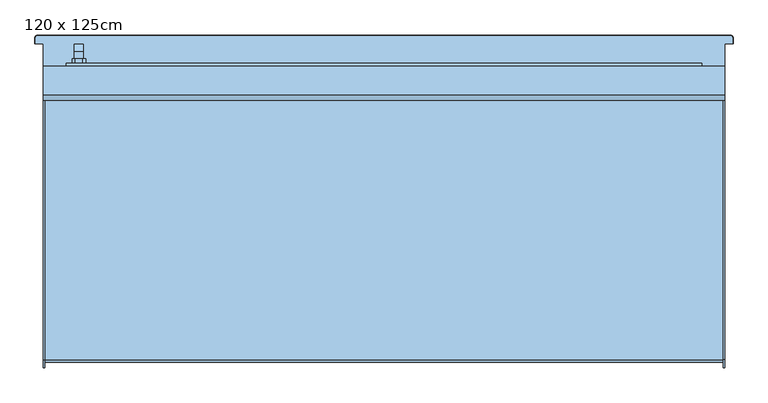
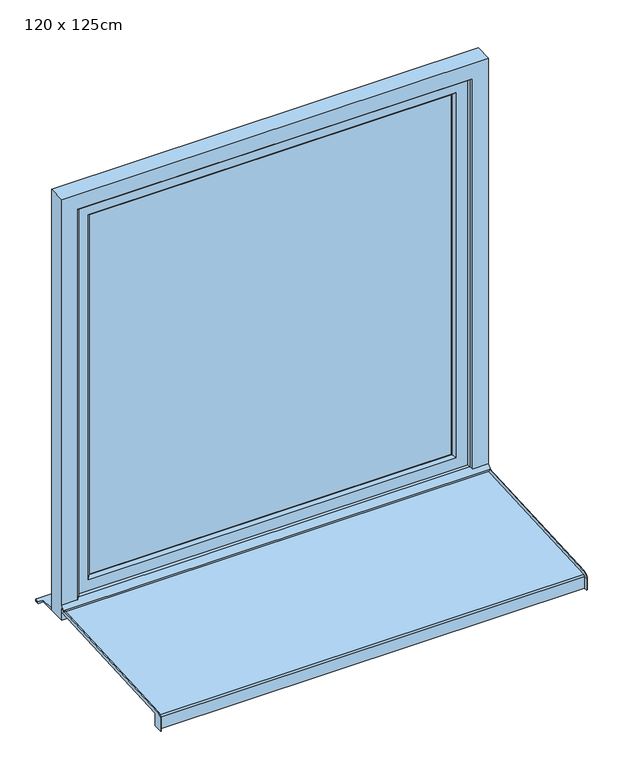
"""IFC4 building model written with IfcOpenShell, lengths in millimetres: window geometry, Fenêtre type 1 : 120 x 125cm."""

from ifc_helpers import new_model, si_unit, frame, origin, place, context, project, spatial, polyline, circle_curve, outline, extrude, faceted_brep, source, transform, mapped, element, save
from ifc_brep_helpers import plane_surface, cylinder_surface, revolved_surface, advanced_brep


def window_120_x_125cm_d7c04d48(model_context):
    return source(origin(), model_context, "Body", "SolidModel", [
        faceted_brep([(-545.5, 238.0, 1306.0), (-545.5, 238.0, 1294.0), (-529.5, 238.0, 1294.0), (-529.5, 238.0, 1306.0), (-529.5, 250.4852814, 1306.0), (-545.5, 250.4852814, 1306.0), (-529.5, 245.5147186, 1294.0), (-529.5, 252.0, 1287.5147186), (-529.5, 252.0, 1287.2282668), (-529.5, 254.7580139, 1208.5355339), (-529.5, 264.0, 1208.5355339), (-529.5, 264.0, 1292.4852814), (-545.5, 245.5147186, 1294.0), (-545.5, 264.0, 1292.4852814), (-545.5, 264.0, 1208.5355339), (-545.5, 254.7580139, 1208.5355339), (-545.5, 252.0099909, 1287.2286157), (-545.5, 252.0, 1287.5147186), (-533.0355339, 264.0, 1205.0), (-533.0355339, 254.8814775, 1205.0), (-541.9644661, 254.8814775, 1205.0), (-541.9644661, 264.0, 1205.0)], [[[0, 1, 2, 3]], [[3, 4, 5, 0]], [[2, 6, 7, 8, 9, 10, 11, 4, 3]], [[1, 12, 6, 2]], [[0, 5, 13, 14, 15, 16, 17, 12, 1]], [[4, 11, 13, 5]], [[6, 12, 17, 7]], [[18, 19, 20, 21]], [[11, 10, 18, 21, 14, 13]], [[17, 16, 8, 7]], [[16, 15, 20, 19, 9, 8]], [[9, 19, 18, 10]], [[14, 21, 20, 15]]]),
        extrude(outline(polyline([(1330.0, -544.5), (1325.0, -549.5), (1275.0, -549.5), (1270.0, -544.5), (1270.0, -530.5), (1275.0, -525.5), (1325.0, -525.5), (1330.0, -530.5), (1330.0, -544.5)])), frame((0.0, 230.0, 0.0), z_axis=(0.0, 1.0, 0.0), x_axis=(0.0, 0.0, 1.0)), (0.0, 0.0, 1.0), 8.0),
        advanced_brep(
        [(-600.0, -280.0, 762.0), (-600.0, -306.5, 762.0), (-600.0, -306.5, 795.1063906), (-600.0, -292.2850393, 810.0858337), (-600.0, 175.0, 834.5752049), (-600.0, 175.0, 823.0594229), (-600.0, -280.0, 799.2138833), (600.0, -280.0, 799.2138833), (600.0, 175.0, 823.0594229), (600.0, 175.0, 834.5752049), (600.0, -292.2850393, 810.0858337), (600.0, -306.5, 795.1063906), (600.0, -306.5, 762.0), (600.0, -280.0, 762.0), (-598.0, 175.0, 834.5752049), (-598.0, 175.0, 824.5614814), (598.0, 175.0, 824.5614814), (598.0, 175.0, 834.5752049), (-598.0, -291.7616798, 800.0995383), (598.0, -291.7616798, 800.0995383), (598.0, -296.5, 795.1063906), (-598.0, -296.5, 795.1063906), (-598.0, -296.5, 762.0), (598.0, -296.5, 762.0), (-598.0, -295.0, 762.0), (598.0, -295.0, 762.0), (598.0, -280.0, 762.0), (598.0, -306.5, 762.0), (-598.0, -306.5, 762.0), (-598.0, -280.0, 762.0), (-598.0, -285.0, 772.0), (598.0, -285.0, 772.0), (-598.0, -286.0606602, 773.0606602), (598.0, -286.0606602, 773.0606602), (-598.0, -295.0, 764.1213203), (598.0, -295.0, 764.1213203), (-598.0, -295.0, 795.0728058), (598.0, -295.0, 795.0728058), (-598.0, -280.0, 799.2138833), (598.0, -280.0, 799.2138833), (598.0, -291.649637, 798.6033517), (-598.0, -291.649637, 798.6033517), (598.0, -306.5, 795.1063906), (598.0, -292.2850393, 810.0858337), (-598.0, -292.2850393, 810.0858337), (-598.0, -306.5, 795.1063906)],
        [
            (0, 1),
            (1, 2),
            (2, 3, circle_curve(frame((-600.0, -291.5, 795.1063906), z_axis=(-1.0, 0.0, 0.0), x_axis=(0.0, -0.05233595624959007, 0.9986295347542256)), 15.0)),
            (3, 4),
            (4, 5),
            (5, 6),
            (6, 0),
            (7, 8),
            (8, 9),
            (9, 10),
            (10, 11, circle_curve(frame((600.0, -291.5, 795.1063906), z_axis=(1.0, 0.0, 0.0), x_axis=(0.0, -1.0, 0.0)), 15.0)),
            (11, 12),
            (12, 13),
            (13, 7),
            (14, 15),
            (15, 16),
            (16, 17),
            (17, 9),
            (8, 5),
            (4, 14),
            (18, 19),
            (19, 16),
            (15, 18),
            (20, 21),
            (21, 22),
            (22, 23),
            (23, 20),
            (24, 25),
            (25, 26),
            (26, 13),
            (12, 27),
            (27, 23),
            (22, 28),
            (28, 1),
            (0, 29),
            (29, 24),
            (30, 31),
            (31, 25),
            (24, 30),
            (32, 33),
            (33, 31),
            (30, 32),
            (34, 35),
            (35, 33),
            (32, 34),
            (36, 37),
            (37, 35),
            (34, 36),
            (38, 6),
            (7, 39),
            (39, 40),
            (40, 41),
            (41, 38),
            (41, 36, circle_curve(frame((-598.0, -291.4646089, 795.0728058), z_axis=(1.0, 0.0, 0.0), x_axis=(0.0, 1.0, 0.0)), 3.5353911)),
            (29, 38),
            (37, 40, circle_curve(frame((598.0, -291.4646089, 795.0728058), z_axis=(-1.0, 0.0, 0.0), x_axis=(0.0, 1.0, 0.0)), 3.5353911)),
            (39, 26),
            (18, 21, circle_curve(frame((-598.0, -291.5, 795.1063906), z_axis=(1.0, 0.0, 0.0), x_axis=(0.0, 1.0, 0.0)), 5.0)),
            (20, 19, circle_curve(frame((598.0, -291.5, 795.1063906), z_axis=(-1.0, 0.0, 0.0), x_axis=(0.0, 1.0, 0.0)), 5.0)),
            (27, 42),
            (42, 43, circle_curve(frame((598.0, -291.5, 795.1063906), z_axis=(-1.0, 0.0, 0.0), x_axis=(0.0, -1.0, 0.0)), 15.0)),
            (43, 17),
            (11, 42),
            (10, 43),
            (14, 44),
            (44, 45, circle_curve(frame((-598.0, -291.5, 795.1063906), z_axis=(1.0, 0.0, 0.0), x_axis=(0.0, -0.05233595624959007, 0.9986295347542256)), 15.0)),
            (45, 28),
            (3, 44),
            (2, 45),
        ],
        [
            plane_surface(frame((-600.0, 175.0, 823.0594229), z_axis=(-1.0, 0.0, 0.0), x_axis=(0.0, 0.0, 1.0))),
            plane_surface(frame((600.0, 175.0, 823.0594229), z_axis=(1.0, 0.0, 0.0), x_axis=(0.0, 0.0, -1.0))),
            plane_surface(frame((-600.0, 175.0, 823.0594229), z_axis=(0.0, 1.0, 0.0), x_axis=(1.0, 0.0, 0.0))),
            plane_surface(frame((-600.0, 175.0, 824.5614814), z_axis=(0.0, -0.05233595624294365, 0.9986295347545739), x_axis=(1.0, 0.0, 0.0))),
            plane_surface(frame((-600.0, -296.5, 795.1063906), z_axis=(0.0, -1.0, 0.0), x_axis=(1.0, 0.0, 0.0))),
            plane_surface(frame((-600.0, -296.5, 762.0), z_axis=(0.0, 0.0, -1.0), x_axis=(1.0, 0.0, 0.0))),
            plane_surface(frame((-600.0, -295.0, 762.0), z_axis=(0.0, 0.707106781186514, -0.7071067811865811), x_axis=(1.0, 0.0, 0.0))),
            plane_surface(frame((-600.0, -285.0, 772.0), z_axis=(0.0, 0.7071067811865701, 0.707106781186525), x_axis=(1.0, 0.0, 0.0))),
            plane_surface(frame((-600.0, -286.0606602, 773.0606602), z_axis=(0.0, -0.7071067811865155, 0.7071067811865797), x_axis=(1.0, 0.0, 0.0))),
            plane_surface(frame((-600.0, -295.0, 764.1213203), z_axis=(0.0, 1.0, 0.0), x_axis=(1.0, 0.0, 0.0))),
            plane_surface(frame((-600.0, -291.649637, 798.6033517), z_axis=(0.0, 0.05233595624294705, -0.9986295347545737), x_axis=(1.0, 0.0, 0.0))),
            plane_surface(frame((-598.0, -295.0, 798.4277666), z_axis=(1.0, 0.0, 0.0), x_axis=(0.0, 0.9986295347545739, 0.05233595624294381))),
            plane_surface(frame((-600.0, -280.0, 762.0), z_axis=(0.0, 1.0, 0.0), x_axis=(1.0, 0.0, 0.0))),
            plane_surface(frame((598.0, -295.0, 798.4277666), z_axis=(-1.0, 0.0, 0.0), x_axis=(0.0, 0.0, -1.0))),
            plane_surface(frame((598.0, -280.0, 762.0), z_axis=(0.0, 1.0, 0.0), x_axis=(1.0, 0.0, 0.0))),
            cylinder_surface(frame((600.0, -291.5, 795.1063906), z_axis=(-1.0, 0.0, 0.0), x_axis=(0.0, 1.0, 0.0)), 5.0),
            revolved_surface(polyline([(598.0, -287.92921779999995, 795.0728058), (-598.0, -287.92921779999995, 795.0728058)]), (600.0, -291.4646089, 795.0728058), (1.0, 0.0, 0.0)),
            plane_surface(frame((598.0, -296.5, 762.0), z_axis=(-1.0, 0.0, 0.0), x_axis=(0.0, 0.0, 1.0))),
            plane_surface(frame((598.0, -306.5, 762.0), z_axis=(0.0, -1.0, 0.0), x_axis=(0.0, 0.0, 1.0))),
            cylinder_surface(frame((600.0, -291.5, 795.1063906), z_axis=(1.0, 0.0, 0.0), x_axis=(0.0, -1.0, 0.0)), 15.0),
            plane_surface(frame((598.0, -292.2850393, 810.0858337), z_axis=(0.0, -0.05233595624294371, 0.9986295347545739), x_axis=(0.0, 0.9986295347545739, 0.05233595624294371))),
            plane_surface(frame((-598.0, 175.0, 834.5752049), z_axis=(1.0, 0.0, 0.0), x_axis=(0.0, 0.9986295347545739, 0.05233595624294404))),
            plane_surface(frame((-600.0, 175.0, 834.5752049), z_axis=(0.0, -0.05233595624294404, 0.9986295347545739), x_axis=(1.0, 0.0, 0.0))),
            cylinder_surface(frame((-600.0, -291.5, 795.1063906), z_axis=(-1.0, 0.0, 0.0), x_axis=(0.0, -0.05233595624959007, 0.9986295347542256)), 15.0),
            plane_surface(frame((-598.0, -306.5, 795.1063906), z_axis=(0.0, -1.0, 0.0), x_axis=(0.0, 0.0, -1.0))),
        ],
        [
            (0, [[1, 2, 3, 4, 5, 6, 7]]),
            (1, [[8, 9, 10, 11, 12, 13, 14]]),
            (2, [[15, 16, 17, 18, -9, 19, -5, 20]]),
            (3, [[21, 22, -16, 23]]),
            (4, [[24, 25, 26, 27]]),
            (5, [[28, 29, 30, -13, 31, 32, -26, 33, 34, -1, 35, 36]]),
            (6, [[37, 38, -28, 39]]),
            (7, [[40, 41, -37, 42]]),
            (8, [[43, 44, -40, 45]]),
            (9, [[46, 47, -43, 48]]),
            (10, [[49, -6, -19, -8, 50, 51, 52, 53]]),
            (11, [[-53, 54, -48, -45, -42, -39, -36, 55]]),
            (12, [[-35, -7, -49, -55]]),
            (13, [[-38, -41, -44, -47, 56, -51, 57, -29]]),
            (14, [[-50, -14, -30, -57]]),
            (15, [[-21, 58, -24, 59]]),
            (16, [[-52, -56, -46, -54]]),
            (17, [[60, 61, 62, -17, -22, -59, -27, -32]]),
            (18, [[-12, 63, -60, -31]]),
            (19, [[64, -61, -63, -11]]),
            (20, [[-10, -18, -62, -64]]),
            (21, [[65, 66, 67, -33, -25, -58, -23, -15]]),
            (22, [[68, -65, -20, -4]]),
            (23, [[69, -66, -68, -3]]),
            (24, [[-34, -67, -69, -2]]),
        ],
    ),
        extrude(outline(polyline([(-510.0, 220.0), (510.0, 220.0), (510.0, 200.0), (-510.0, 200.0), (-510.0, 220.0)])), frame((0.0, 0.0, 890.0), z_axis=(0.0, 0.0, 1.0), x_axis=(1.0, 0.0, 0.0)), (0.0, 0.0, 1.0), 1070.0),
        faceted_brep([(-560.0, 230.0, 840.0), (560.0, 230.0, 840.0), (560.0, 190.0, 840.0), (-560.0, 190.0, 840.0), (560.0, 230.0, 2010.0), (560.0, 190.0, 2010.0), (-560.0, 190.0, 2010.0), (517.0710678, 190.0, 1967.0710678), (517.0710678, 190.0, 882.9289322), (-517.0710678, 190.0, 882.9289322), (-517.0710678, 190.0, 1967.0710678), (-560.0, 230.0, 2010.0), (517.0710678, 230.0, 882.9289322), (517.0710678, 230.0, 1967.0710678), (-517.0710678, 230.0, 1967.0710678), (-517.0710678, 230.0, 882.9289322), (-510.0, 222.9289322, 890.0), (510.0, 222.9289322, 890.0), (510.0, 222.9289322, 1960.0), (510.0, 197.0710678, 890.0), (510.0, 197.0710678, 1960.0), (-510.0, 197.0710678, 890.0), (-510.0, 222.9289322, 1960.0), (-510.0, 197.0710678, 1960.0)], [[[0, 1, 2, 3]], [[1, 4, 5, 2]], [[2, 5, 6, 3], [7, 8, 9, 10]], [[4, 1, 0, 11], [12, 13, 14, 15]], [[16, 17, 12, 15]], [[17, 18, 13, 12]], [[19, 20, 18, 17]], [[9, 8, 19, 21]], [[8, 7, 20, 19]], [[11, 0, 3, 6]], [[22, 16, 15, 14]], [[23, 21, 16, 22]], [[10, 9, 21, 23]], [[21, 19, 17, 16]], [[4, 11, 6, 5]], [[18, 22, 14, 13]], [[7, 10, 23, 20]], [[20, 23, 22, 18]]]),
        faceted_brep([(600.0, 175.0, 800.0), (600.0, 225.0, 800.0), (600.0, 225.0, 2050.0), (600.0, 175.0, 2050.0), (600.0, 175.0, 845.0), (600.0, 165.0, 835.0), (600.0, 165.0, 830.0), (600.0, 175.0, 830.0), (-600.0, 175.0, 830.0), (-600.0, 175.0, 800.0), (-600.0, 165.0, 830.0), (-600.0, 165.0, 835.0), (555.0, 175.0, 845.0), (550.0, 180.0, 850.0), (-550.0, 180.0, 850.0), (-555.0, 175.0, 845.0), (-600.0, 175.0, 845.0), (-600.0, 175.0, 2050.0), (-555.0, 175.0, 2005.0), (555.0, 175.0, 2005.0), (-600.0, 225.0, 800.0), (-600.0, 225.0, 2050.0), (560.0, 225.0, 840.0), (560.0, 225.0, 2010.0), (-560.0, 225.0, 2010.0), (-560.0, 225.0, 840.0), (-560.0, 190.0, 840.0), (560.0, 190.0, 840.0), (-560.0, 190.0, 2010.0), (560.0, 190.0, 2010.0), (550.0, 190.0, 850.0), (550.0, 190.0, 2000.0), (-550.0, 190.0, 2000.0), (-550.0, 190.0, 850.0), (-550.0, 180.0, 2000.0), (550.0, 180.0, 2000.0)], [[[0, 1, 2, 3, 4, 5, 6, 7]], [[7, 8, 9, 0]], [[6, 10, 8, 7]], [[5, 11, 10, 6]], [[5, 4, 12, 13, 14, 15, 16, 11]], [[17, 16, 15, 18, 19, 12, 4, 3]], [[1, 20, 21, 2], [22, 23, 24, 25]], [[0, 9, 20, 1]], [[9, 8, 10, 11, 16, 17, 21, 20]], [[25, 26, 27, 22]], [[26, 25, 24, 28]], [[22, 27, 29, 23]], [[29, 27, 26, 28], [30, 31, 32, 33]], [[33, 14, 13, 30]], [[34, 14, 33, 32]], [[31, 30, 13, 35]], [[35, 13, 12, 19]], [[18, 15, 14, 34]], [[3, 2, 21, 17]], [[28, 24, 23, 29]], [[31, 35, 34, 32]], [[18, 34, 35, 19]]]),
        advanced_brep(
        [(600.0, 265.0, 805.0), (613.9971508, 265.0, 805.0), (613.9971508, 275.0, 805.0), (610.0, 278.9971508, 805.0), (-610.0, 278.9971508, 805.0), (-613.9971508, 275.0, 805.0), (-613.9971508, 265.0, 805.0), (-600.0, 265.0, 805.0), (-600.0, 225.0, 805.0), (600.0, 225.0, 805.0), (-600.0, 265.0, 800.0), (-613.9971508, 265.0, 800.0), (-613.9971508, 275.0, 800.0), (-610.0, 278.9971508, 800.0), (610.0, 278.9971508, 800.0), (613.9971508, 275.0, 800.0), (613.9971508, 265.0, 800.0), (600.0, 265.0, 800.0), (600.0, 225.0, 800.0), (-600.0, 225.0, 800.0), (-615.0, 275.0, 801.0028492), (-615.0, 265.0, 801.0028492), (-615.0, 265.0, 803.9971508), (-615.0, 275.0, 803.9971508), (615.0, 265.0, 801.0028492), (615.0, 265.0, 803.9971508), (615.0, 275.0, 801.0028492), (615.0, 275.0, 803.9971508), (610.0, 280.0, 801.0028492), (-610.0, 280.0, 801.0028492), (-610.0, 280.0, 803.9971508), (610.0, 280.0, 803.9971508)],
        [
            (0, 1),
            (1, 2),
            (2, 3, circle_curve(frame((610.0, 275.0, 805.0), z_axis=(0.0, 0.0, 1.0), x_axis=(0.0, 1.0, 0.0)), 3.9971508)),
            (3, 4),
            (4, 5, circle_curve(frame((-610.0, 275.0, 805.0), z_axis=(0.0, 0.0, 1.0), x_axis=(-1.0, 0.0, 0.0)), 3.9971508)),
            (5, 6),
            (6, 7),
            (7, 8),
            (8, 9),
            (9, 0),
            (10, 11),
            (11, 12),
            (12, 13, circle_curve(frame((-610.0, 275.0, 800.0), z_axis=(0.0, 0.0, -1.0), x_axis=(-1.0, 0.0, 0.0)), 3.9971508)),
            (13, 14),
            (14, 15, circle_curve(frame((610.0, 275.0, 800.0), z_axis=(0.0, 0.0, -1.0), x_axis=(0.0, 1.0, 0.0)), 3.9971508)),
            (15, 16),
            (16, 17),
            (17, 18),
            (18, 19),
            (19, 10),
            (20, 21),
            (21, 22),
            (22, 23),
            (23, 20),
            (6, 22),
            (21, 11),
            (10, 7),
            (19, 8),
            (18, 9),
            (17, 0),
            (16, 24),
            (24, 25),
            (25, 1),
            (24, 26),
            (26, 27),
            (27, 25),
            (28, 29),
            (29, 30),
            (30, 31),
            (31, 28),
            (31, 27, circle_curve(frame((610.0, 275.0, 803.9971508), z_axis=(0.0, 0.0, -1.0), x_axis=(0.0, 1.0, 0.0)), 5.0)),
            (26, 28, circle_curve(frame((610.0, 275.0, 801.0028492), z_axis=(0.0, 0.0, 1.0), x_axis=(0.0, 1.0, 0.0)), 5.0)),
            (23, 30, circle_curve(frame((-610.0, 275.0, 803.9971508), z_axis=(0.0, 0.0, -1.0), x_axis=(0.0, 1.0, 0.0)), 5.0)),
            (29, 20, circle_curve(frame((-610.0, 275.0, 801.0028492), z_axis=(0.0, 0.0, 1.0), x_axis=(0.0, 1.0, 0.0)), 5.0)),
            (5, 23),
            (20, 12),
            (4, 30),
            (29, 13),
            (3, 31),
            (28, 14),
            (2, 27),
            (26, 15),
        ],
        [
            plane_surface(frame((-615.0, 265.0, 805.0), z_axis=(0.0, 0.0, 1.0), x_axis=(0.0, 1.0, 0.0))),
            plane_surface(frame((-615.0, 265.0, 800.0), z_axis=(0.0, 0.0, -1.0), x_axis=(0.0, -1.0, 0.0))),
            plane_surface(frame((-615.0, 275.0, 800.0), z_axis=(-1.0, 0.0, 0.0), x_axis=(0.0, 0.0, 1.0))),
            plane_surface(frame((-615.0, 265.0, 800.0), z_axis=(0.0, -1.0, 0.0), x_axis=(0.0, 0.0, 1.0))),
            plane_surface(frame((-600.0, 265.0, 800.0), z_axis=(-1.0, 0.0, 0.0), x_axis=(0.0, 0.0, 1.0))),
            plane_surface(frame((-600.0, 225.0, 800.0), z_axis=(0.0, -1.0, 0.0), x_axis=(0.0, 0.0, 1.0))),
            plane_surface(frame((600.0, 225.0, 800.0), z_axis=(1.0, 0.0, 0.0), x_axis=(0.0, 0.0, 1.0))),
            plane_surface(frame((600.0, 265.0, 800.0), z_axis=(0.0, -1.0, 0.0), x_axis=(0.0, 0.0, 1.0))),
            plane_surface(frame((615.0, 265.0, 800.0), z_axis=(1.0, 0.0, 0.0), x_axis=(0.0, 0.0, 1.0))),
            plane_surface(frame((610.0, 280.0, 800.0), z_axis=(0.0, 1.0, 0.0), x_axis=(0.0, 0.0, 1.0))),
            cylinder_surface(frame((610.0, 275.0, 805.0), z_axis=(0.0, 0.0, -1.0), x_axis=(0.0, 1.0, 0.0)), 5.0),
            cylinder_surface(frame((-610.0, 275.0, 805.0), z_axis=(0.0, 0.0, -1.0), x_axis=(0.0, 1.0, 0.0)), 5.0),
            plane_surface(frame((-613.9971508, 265.0, 805.0), z_axis=(-0.7071067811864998, 0.0, 0.7071067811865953), x_axis=(0.0, 1.0, 0.0))),
            plane_surface(frame((-615.0, 265.0, 801.0028492), z_axis=(-0.7071067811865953, 0.0, -0.7071067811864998), x_axis=(0.0, 1.0, 0.0))),
            revolved_surface(polyline([(-615.0, 275.0, 803.9971508), (-613.9971508, 275.0, 805.0)]), (-610.0, 275.0, 805.0), (0.0, 0.0, 1.0)),
            revolved_surface(polyline([(-613.9971508, 275.0, 800.0), (-615.0, 275.0, 801.0028492)]), (-610.0, 275.0, 805.0), (0.0, 0.0, 1.0)),
            plane_surface(frame((-610.0, 278.9971508, 805.0), z_axis=(0.0, 0.7071067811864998, 0.7071067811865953), x_axis=(1.0, 0.0, 0.0))),
            plane_surface(frame((-610.0, 280.0, 801.0028492), z_axis=(0.0, 0.7071067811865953, -0.7071067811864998), x_axis=(1.0, 0.0, 0.0))),
            revolved_surface(polyline([(610.0, 280.0, 803.9971508), (610.0, 278.9971508, 805.0)]), (610.0, 275.0, 805.0), (0.0, 0.0, 1.0)),
            revolved_surface(polyline([(610.0, 278.9971508, 800.0), (610.0, 280.0, 801.0028492)]), (610.0, 275.0, 805.0), (0.0, 0.0, 1.0)),
            plane_surface(frame((613.9971508, 275.0, 805.0), z_axis=(0.7071067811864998, 0.0, 0.7071067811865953), x_axis=(0.0, -1.0, 0.0))),
            plane_surface(frame((615.0, 275.0, 801.0028492), z_axis=(0.7071067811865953, 0.0, -0.7071067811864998), x_axis=(0.0, -1.0, 0.0))),
        ],
        [
            (0, [[1, 2, 3, 4, 5, 6, 7, 8, 9, 10]]),
            (1, [[11, 12, 13, 14, 15, 16, 17, 18, 19, 20]]),
            (2, [[21, 22, 23, 24]]),
            (3, [[-7, 25, -22, 26, -11, 27]]),
            (4, [[-27, -20, 28, -8]]),
            (5, [[-28, -19, 29, -9]]),
            (6, [[-29, -18, 30, -10]]),
            (7, [[-17, 31, 32, 33, -1, -30]]),
            (8, [[34, 35, 36, -32]]),
            (9, [[37, 38, 39, 40]]),
            (10, [[41, -35, 42, -40]]),
            (11, [[43, -38, 44, -24]]),
            (12, [[-23, -25, -6, 45]]),
            (13, [[-12, -26, -21, 46]]),
            (14, [[-5, 47, -43, -45]]),
            (15, [[-44, 48, -13, -46]]),
            (16, [[-4, 49, -39, -47]]),
            (17, [[-37, 50, -14, -48]]),
            (18, [[-3, 51, -41, -49]]),
            (19, [[-42, 52, -15, -50]]),
            (20, [[-2, -33, -36, -51]]),
            (21, [[-34, -31, -16, -52]]),
        ],
    ),
    ])


if __name__ == "__main__":
    model = new_model("IFC4")
    model_context = context("Model", 3, world=origin())
    ifc_project = project(units=[si_unit("LENGTHUNIT", "METRE", prefix="MILLI")], contexts=[model_context])
    site = spatial("IfcSite", under=ifc_project)
    building = spatial("IfcBuilding", under=site)
    placement = place(None, origin())
    window_120_x_125cm_shape = window_120_x_125cm_d7c04d48(model_context)
    element("IfcWindow", 1, ObjectType="Fenêtre type 1 : 120 x 125cm", at=placement, inside=building, context=model_context, shape_type="MappedRepresentation", body=[
        mapped(window_120_x_125cm_shape, transform((0.0, 0.0, 0.0), x_axis=(1.0, 0.0, 0.0), y_axis=(0.0, 1.0, 0.0), z_axis=(0.0, 0.0, 1.0))),
    ])
    save(model, "model.ifc")
